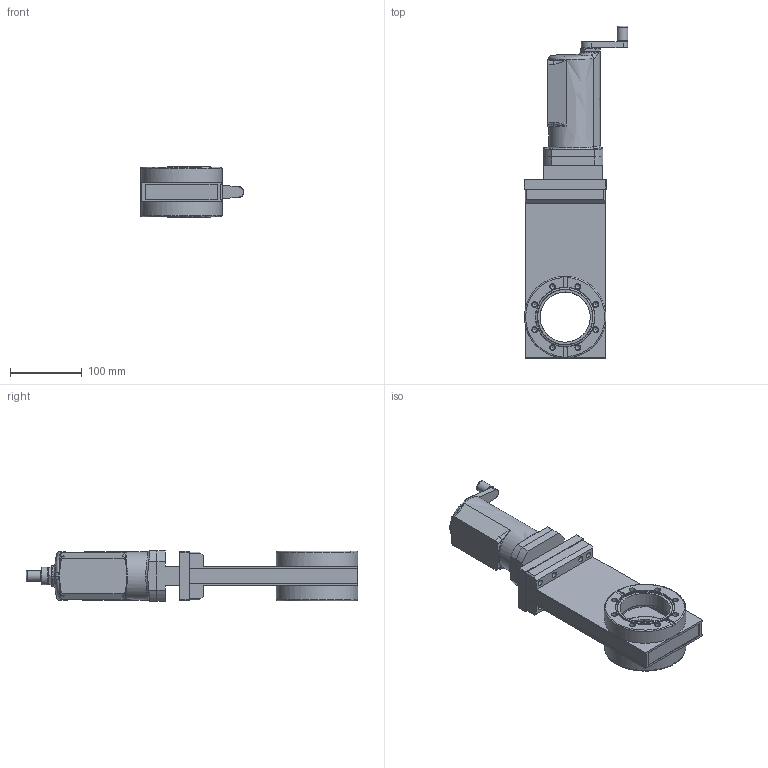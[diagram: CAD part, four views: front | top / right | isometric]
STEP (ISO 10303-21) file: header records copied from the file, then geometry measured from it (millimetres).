
FILE_DESCRIPTION((''),'2;1');
FILE_NAME('O:\MT\MT\Systeme\Cad\Datenexporte\www_vat_ch\82272.stp','2005-06-24T10:33:39',('User'),('SDRC'),'I-DEAS Master Series 9','UNIX','Yes');
FILE_SCHEMA(('CONFIG_CONTROL_DESIGN'));
Length unit declared in the file: millimetre
Assembly tree (10 placements, depth 0):
Bounding box: 145 x 463.43 x 70 mm (x, y, z)
Volume: 1312151.1 mm3; surface area: 271045.4 mm2
Topology: 8 solids, 8 shells, 368 faces, 881 edges, 572 vertices
Faces by surface type: bspline 368
Entity records: 14409 total; most frequent: CARTESIAN_POINT 7845, ORIENTED_EDGE 1696, EDGE_CURVE 848, VERTEX_POINT 556, EDGE_LOOP 472, FACE_OUTER_BOUND 368, ADVANCED_FACE 368, B_SPLINE_CURVE_WITH_KNOTS 268
